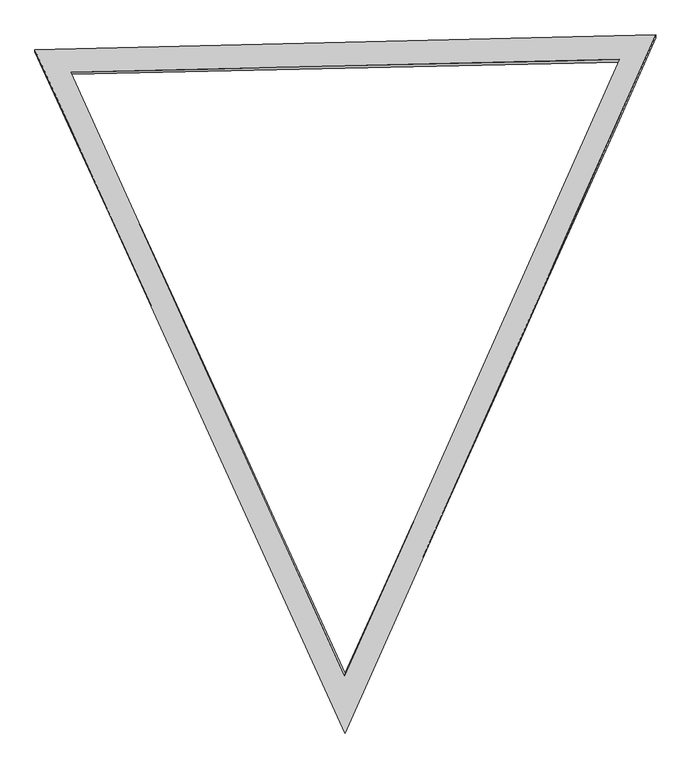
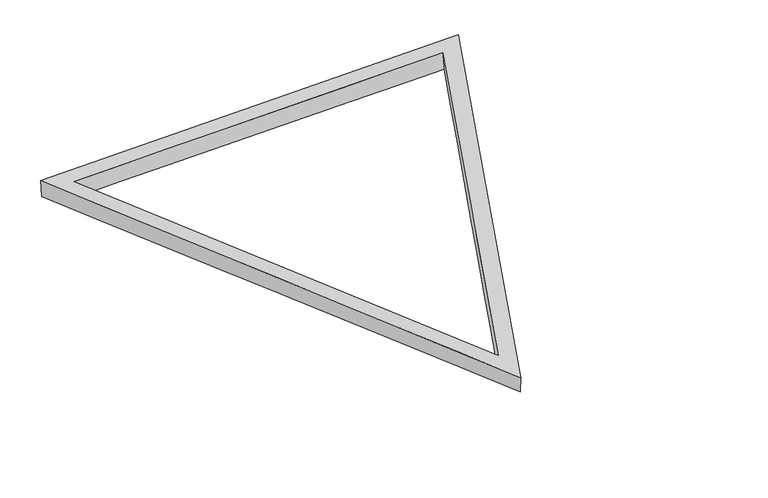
"""IFC4 building model written with IfcOpenShell, lengths in millimetres: plate geometry."""

from ifc_helpers import new_model, si_unit, frame, origin, place, context, project, spatial, source, transform, mapped, element, save
from ifc_brep_helpers import plane_surface, spline_surface, advanced_brep


def plate_c11bd94d(model_context):
    return source(origin(), model_context, "Body", "AdvancedBrep", [
        advanced_brep(
        [(3734.4295416, 6792.7295883, 0.0), (3732.7432347, 6810.7862623, 202.3833816), (6088.997073, 1617.8302724, 201.998056), (6094.1500403, 1636.2075222, 0.0), (8453.8769142, 6922.4889779, 201.5663351), (8453.8705389, 6896.8484911, 0.0), (6096.0, 1143.8414049, 0.0), (8770.8839655, 7107.0917916, 0.0), (8770.307254, 7133.2326342, 201.5107038), (6090.6304481, 1122.4532921, 201.9998924), (3421.1160345, 6989.0668035, 0.0), (3420.7278809, 7006.6608012, 202.43651)],
        [
            (0, 1),
            (1, 2),
            (2, 3),
            (3, 0),
            (2, 4),
            (4, 5),
            (5, 3),
            (0, 5),
            (4, 1),
            (6, 7),
            (7, 8),
            (8, 9),
            (9, 6),
            (7, 10),
            (10, 11),
            (11, 8),
            (9, 11),
            (10, 6),
        ],
        [
            spline_surface(1, 1, [[(3734.4295416, 6792.7295883, 0.0), (6094.1500403, 1636.2075222, 0.0)], [(3732.7432347, 6810.7862623, 202.3833816), (6088.997073, 1617.8302724, 201.998056)]], [2, 2], [2, 2], [0.0, 1.0], [0.0, 1.0]),
            spline_surface(1, 1, [[(6094.1500403, 1636.2075222, 0.0), (8453.8705389, 6896.8484911, 0.0)], [(6088.997073, 1617.8302724, 201.998056), (8453.8769142, 6922.4889779, 201.5663351)]], [2, 2], [2, 2], [0.0, 1.0], [0.0, 1.0]),
            spline_surface(1, 1, [[(8453.8705389, 6896.8484911, 0.0), (3734.4295416, 6792.7295883, 0.0)], [(8453.8769142, 6922.4889779, 201.5663351), (3732.7432347, 6810.7862623, 202.3833816)]], [2, 2], [2, 2], [0.0, 1.0], [0.0, 1.0]),
            spline_surface(1, 1, [[(6096.0, 1143.8414049, 0.0), (6090.6304481, 1122.4532921, 201.9998924)], [(8770.8839655, 7107.0917916, 0.0), (8770.307254, 7133.2326342, 201.5107038)]], [2, 2], [2, 2], [0.0, 1.0], [0.0, 1.0]),
            spline_surface(1, 1, [[(8770.8839655, 7107.0917916, 0.0), (8770.307254, 7133.2326342, 201.5107038)], [(3421.1160345, 6989.0668035, 0.0), (3420.7278809, 7006.6608012, 202.43651)]], [2, 2], [2, 2], [0.0, 1.0], [0.0, 1.0]),
            spline_surface(1, 1, [[(3421.1160345, 6989.0668035, 0.0), (3420.7278809, 7006.6608012, 202.43651)], [(6096.0, 1143.8414049, 0.0), (6090.6304481, 1122.4532921, 201.9998924)]], [2, 2], [2, 2], [0.0, 1.0], [0.0, 1.0]),
            plane_surface(frame((6093.8885277, 5087.4489092, 201.9823688), z_axis=(0.0001729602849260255, 4.277474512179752e-06, 0.9999999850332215), x_axis=(0.41319525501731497, -0.910642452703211, -6.75711201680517e-05))),
            plane_surface(frame((6096.0, 5080.0, 0.0), z_axis=(0.0, 0.0, -1.0), x_axis=(-0.4161175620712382, 0.909310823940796, 0.0))),
        ],
        [
            (0, [[1, 2, 3, 4]]),
            (1, [[-3, 5, 6, 7]]),
            (2, [[-1, 8, -6, 9]]),
            (3, [[10, 11, 12, 13]]),
            (4, [[-11, 14, 15, 16]]),
            (5, [[-13, 17, -15, 18]]),
            (6, [[-12, -16, -17], [-2, -9, -5]]),
            (7, [[-10, -18, -14], [-4, -7, -8]]),
        ],
    ),
    ])


if __name__ == "__main__":
    model = new_model("IFC4")
    model_context = context("Model", 3, world=origin())
    ifc_project = project(units=[si_unit("LENGTHUNIT", "METRE", prefix="MILLI")], contexts=[model_context])
    site = spatial("IfcSite", under=ifc_project)
    building = spatial("IfcBuilding", under=site)
    placement = place(None, origin())
    plate_shape = plate_c11bd94d(model_context)
    element("IfcPlate", 1, ObjectType="tn_cpanel_patbase_triangle_flat_seamless_frame_02_cylinder : tn_triangle_seamless_frame_t8\"xh8\"", at=placement, inside=building, context=model_context, shape_type="MappedRepresentation", body=[
        mapped(plate_shape, transform((0.0, 0.0, 0.0), x_axis=(1.0, 0.0, 0.0), y_axis=(0.0, 1.0, 0.0), z_axis=(0.0, 0.0, 1.0))),
    ])
    save(model, "model.ifc")
